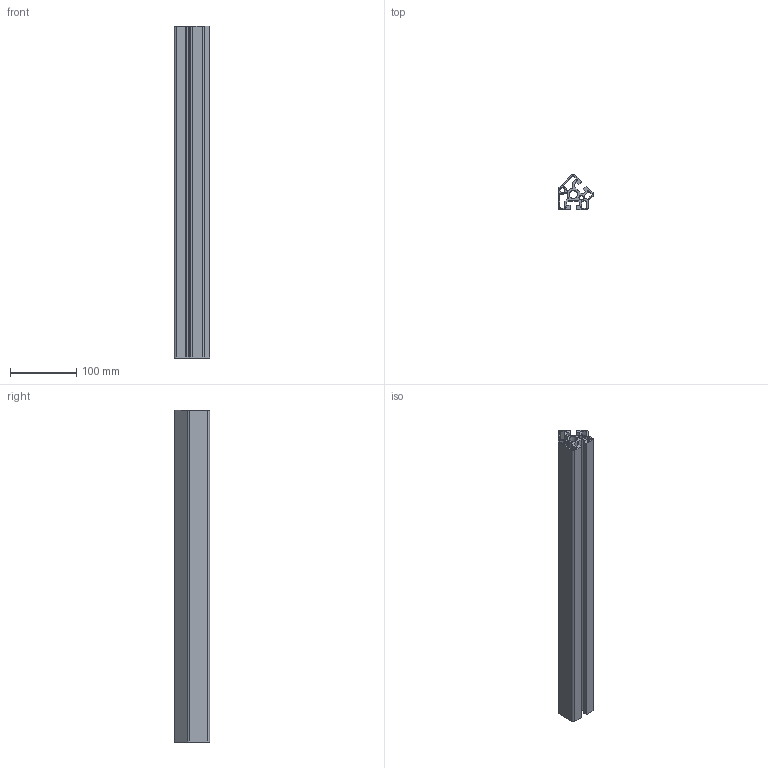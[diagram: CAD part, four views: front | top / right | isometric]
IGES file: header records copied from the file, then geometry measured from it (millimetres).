
Start section: SolidWorks IGES file using analytic representation for surfaces
Global section: file name: C:\Documents and Settings\Administrator\デスクトップ\指定保存後4回目\SolidWorks\SF\SF40・45\Frame\SFF-J84B.IGS; native system: SolidWorks 2006 by SolidWorks Corporation; preprocessor: SolidWorks 2006 by SolidWorks Corporation; author: Administrator; date: 061218.111852; units: millimetre
Bounding box: 53.07 x 53.07 x 500 mm (x, y, z)
Volume: 409952.8 mm3; surface area: 283250.6 mm2
Topology: 1 solids, 1 shells, 116 faces, 342 edges, 228 vertices
Faces by surface type: revolution 60, plane 56
